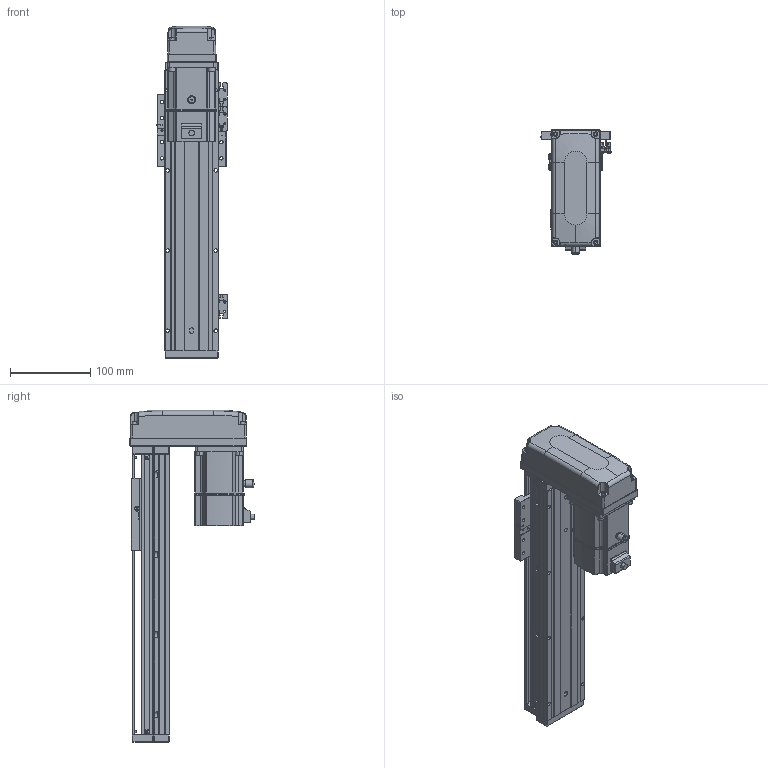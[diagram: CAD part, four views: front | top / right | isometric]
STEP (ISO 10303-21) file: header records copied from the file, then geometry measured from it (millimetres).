
FILE_DESCRIPTION (( 'STEP AP203' ), '1' );
FILE_NAME ('KTHAL60-200-BM-M20-C4L.step', '2022-12-16T02:09:40', ( '微软用户' ), ( '微软中国' ), 'SwSTEP 2.0', 'SolidWorks 2020', '' );
FILE_SCHEMA (( 'CONFIG_CONTROL_DESIGN' ));
Length unit declared in the file: millimetre
Products named in the file (17): CTHA60-015-4_CTHA60-015-4; KTHLA60-002; CTHA60-021; GTH80-026; KTHA60-004; GBT 70.1-M4×16; KTHAL60-200-BM-M20-C4L; KTHA60-005; GBT77-2000M3-3; GB¨uT 70.2-M3¡Á5_M3¡Á6; GBT 70.1-M3℅6; GBT 70.3-M3℅6; CTHA60-016; EE_SX911P_R; _X2_4E0983F1_X0_200W_1; KTHA60-001_350; CTHA60-017
Assembly tree (45 placements, depth 2):
  KTHAL60-200-BM-M20-C4L
    KTHA60-001_350
    KTHLA60-002
    KTHA60-004
    KTHA60-005
    GB¨uT 70.2-M3¡Á5_M3¡Á6  x5
    GBT 70.3-M3℅6  x4
    EE_SX911P_R  x3
    CTHA60-017  x3
    CTHA60-021  x2
    GBT 70.1-M4×16  x8
    GBT77-2000M3-3  x6
    GBT 70.1-M3℅6  x6
    CTHA60-016
    _X2_4E0983F1_X0_200W_1
    CTHA60-015-4_CTHA60-015-4
    GTH80-026
Bounding box: 87.82 x 155.2 x 414 mm (x, y, z)
Volume: 1432183.5 mm3; surface area: 289093.1 mm2
Topology: 48 solids, 48 shells, 2291 faces, 5436 edges, 3337 vertices
Faces by surface type: plane 1223, cylinder 605, cone 264, bspline 103, torus 82, sphere 14
Entity records: 43955 total; most frequent: CARTESIAN_POINT 9930, DIRECTION 6591, ORIENTED_EDGE 6496, EDGE_CURVE 3248, AXIS2_PLACEMENT_3D 2282, LINE 2027, VECTOR 2027, VERTEX_POINT 2021
